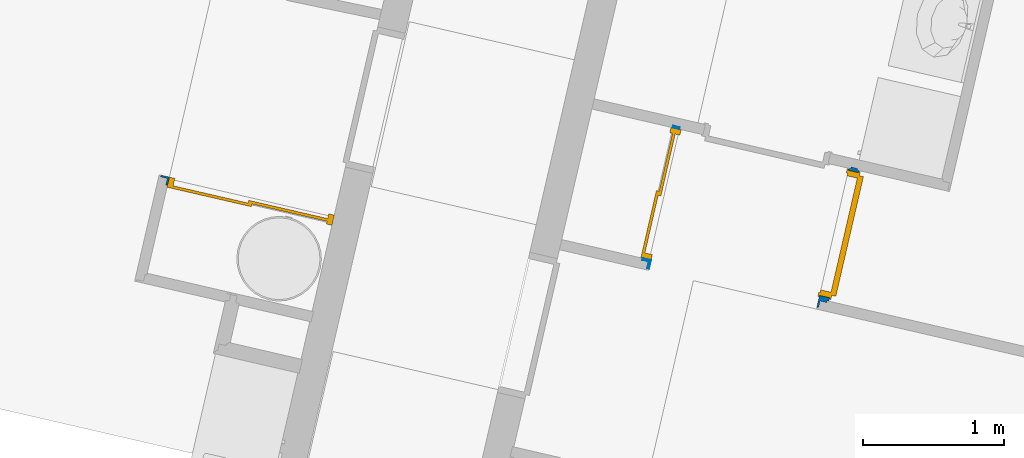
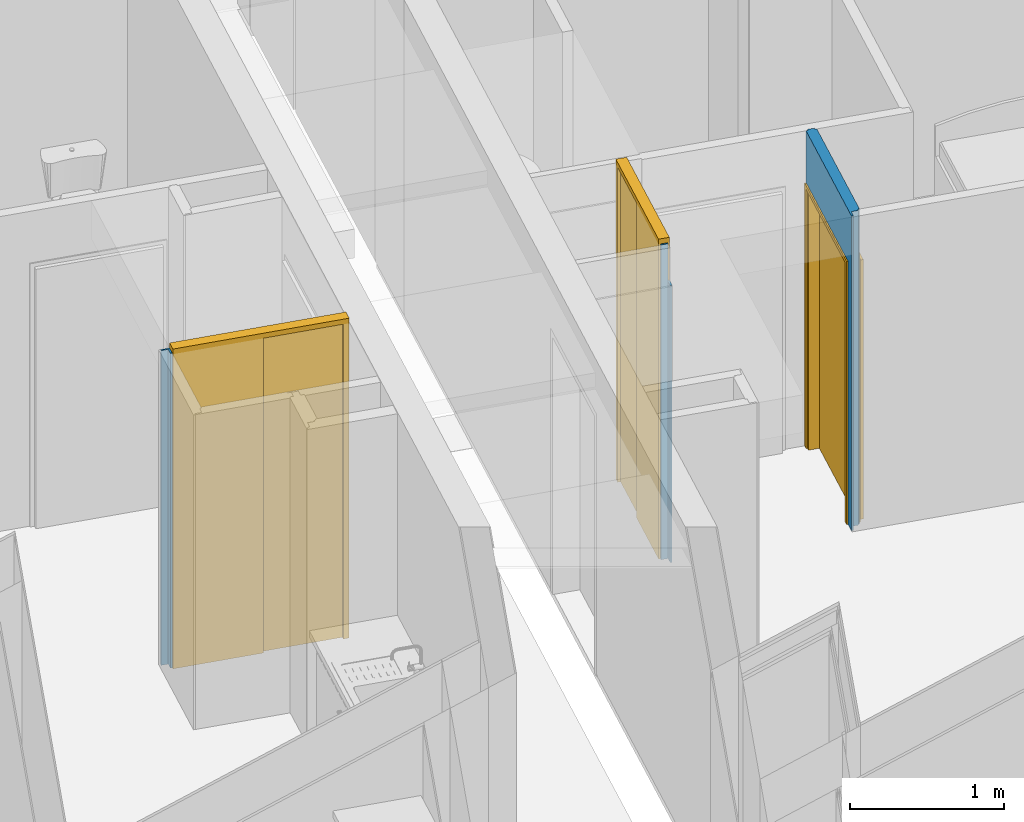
# One storey, part 18 of 119: 3 doors, 3 walls, 3 openings.
"""IFC2X3 building model written with IfcOpenShell, lengths in metres."""

import ifcopenshell
import ifcopenshell.guid

model = None  # the IFC model being written
_history = None  # IfcOwnerHistory: only IFC2X3 demands one
_inside = {}  # id of a spatial element -> (the spatial element, [elements in it])
_under = {}  # id of a project, library or spatial element -> (it, [spatial elements below it])
_declared = {}  # id of a project -> (the project, [libraries it declares])
_typed = {}  # id of a type object -> (the type object, [elements of that type])
_made_of = {}  # id of a material, layer set ... -> (it, [elements and type objects made of it])


def new_model(schema):
    """Start an empty IFC model of exactly this schema.

    Asked for "IFC4X3", IfcOpenShell would pick the latest addendum, in which some entities
    have other attributes; the version numbers below select the first issue.
    IFC2X3 requires an IfcOwnerHistory on every rooted entity: one is made here for all.
    """
    global model, _history
    if schema == "IFC4X3":
        model = ifcopenshell.file(schema_version=(4, 3, 0, 0))
    else:
        model = ifcopenshell.file(schema=schema)
    _inside.clear()
    _under.clear()
    _declared.clear()
    _typed.clear()
    _made_of.clear()
    _history = None
    if model.schema == "IFC2X3":
        org = make("IfcOrganization", Name="unknown")
        user = make(
            "IfcPersonAndOrganization",
            ThePerson=make("IfcPerson", FamilyName="unknown"),
            TheOrganization=org,
        )
        app = make(
            "IfcApplication",
            ApplicationDeveloper=org,
            Version="unknown",
            ApplicationFullName="unknown",
            ApplicationIdentifier="unknown",
        )
        _history = make(
            "IfcOwnerHistory",
            OwningUser=user,
            OwningApplication=app,
            ChangeAction="ADDED",
            CreationDate=0,
        )
    return model


def make(cls, **values):
    """One entity of the class cls with the attributes given. An attribute that is None is left unset."""
    return model.create_entity(
        cls, **{name: value for name, value in values.items() if value is not None}
    )


def entity(cls, *values):
    """Any entity or typed value of the class cls, its attributes in the order of the schema. None: left unset."""
    e = model.create_entity(cls)
    for i, value in enumerate(values):
        if value is not None:
            e[i] = value
    return e


def rooted(cls, **values):
    """An entity with a GlobalId (a new one), such as an element, a storey or a relation."""
    return make(cls, GlobalId=ifcopenshell.guid.new(), OwnerHistory=_history, **values)


def si_unit(unit_type, name, prefix=None):
    """IfcSIUnit, for example si_unit("LENGTHUNIT", "METRE", prefix="MILLI")."""
    return make("IfcSIUnit", UnitType=unit_type, Prefix=prefix, Name=name)


def converted_unit(unit_type, name, factor, base, dimensions=None, offset=None):
    """IfcConversionBasedUnit, such as the inch: factor (a typed value) times the base unit."""
    return make(
        "IfcConversionBasedUnit"
        if offset is None
        else "IfcConversionBasedUnitWithOffset",
        ConversionOffset=offset,
        Dimensions=None
        if dimensions is None
        else entity("IfcDimensionalExponents", *dimensions),
        UnitType=unit_type,
        Name=name,
        ConversionFactor=make(
            "IfcMeasureWithUnit", ValueComponent=factor, UnitComponent=base
        ),
    )


def derived_unit(unit_type, elements):
    """IfcDerivedUnit: a product of units, each with its exponent."""
    return make(
        "IfcDerivedUnit",
        Elements=[
            make("IfcDerivedUnitElement", Unit=unit, Exponent=power)
            for unit, power in elements
        ],
        UnitType=unit_type,
    )


def money_unit(currency):
    """IfcMonetaryUnit."""
    return make("IfcMonetaryUnit", Currency=currency)


def assignment(units):
    """IfcUnitAssignment: the units of a project."""
    return None if units is None else make("IfcUnitAssignment", Units=units)


def point(xyz):
    """IfcCartesianPoint."""
    return None if xyz is None else make("IfcCartesianPoint", Coordinates=xyz)


def direction(xyz):
    """IfcDirection."""
    return None if xyz is None else make("IfcDirection", DirectionRatios=xyz)


def frame(location, z_axis=None, x_axis=None):
    """IfcAxis2Placement3D, a coordinate frame: its origin and axes. An axis left out is left unset."""
    return make(
        "IfcAxis2Placement3D",
        Location=point(location),
        Axis=direction(z_axis),
        RefDirection=direction(x_axis),
    )


def origin_with_axes():
    """The frame at (0, 0, 0) with the z axis (0, 0, 1) and the x axis (1, 0, 0) written out."""
    return frame((0.0, 0.0, 0.0), z_axis=(0.0, 0.0, 1.0), x_axis=(1.0, 0.0, 0.0))


def place(relative_to, where):
    """IfcLocalPlacement: puts the frame where relative to a parent placement (None: the world)."""
    return make(
        "IfcLocalPlacement", PlacementRelTo=relative_to, RelativePlacement=where
    )


def context(
    kind, dimensions, precision=None, world=None, true_north=None, identifier=None
):
    """IfcGeometricRepresentationContext, for example the 3D "Model" context."""
    return make(
        "IfcGeometricRepresentationContext",
        ContextIdentifier=identifier,
        ContextType=kind,
        CoordinateSpaceDimension=dimensions,
        Precision=precision,
        WorldCoordinateSystem=world,
        TrueNorth=true_north,
    )


def subcontext(parent, identifier, kind, view, scale=None):
    """IfcGeometricRepresentationSubContext, for example "Body" below "Model"."""
    return make(
        "IfcGeometricRepresentationSubContext",
        ContextIdentifier=identifier,
        ContextType=kind,
        ParentContext=parent,
        TargetScale=scale,
        TargetView=view,
    )


def project(units=None, contexts=None):
    """IfcProject with its units and contexts."""
    return rooted(
        "IfcProject",
        Name="project",
        RepresentationContexts=contexts,
        UnitsInContext=assignment(units),
    )


def spatial(cls, under=None, at=None, **own):
    """A site, building, storey or space (cls), placed at a placement, below another one or the project."""
    s = rooted(cls, ObjectPlacement=at, **own)
    if under is not None:
        _under.setdefault(under.id(), (under, []))[1].append(s)
    return s


def faces_of(points, faces, orient=None, outer=None):
    """IfcFace entities. A face is a list of loops; a loop is a list of indices into points, from 0.

    orient and outer hold one flag for each loop. By default every Orientation is true, the
    first loop of a face is its IfcFaceOuterBound and the others are IfcFaceBound.
    """
    made = []
    for i, loops in enumerate(faces):
        bounds = []
        for j, loop in enumerate(loops):
            is_outer = j == 0 if outer is None else outer[i][j]
            bounds.append(
                make(
                    "IfcFaceOuterBound" if is_outer else "IfcFaceBound",
                    Bound=make("IfcPolyLoop", Polygon=[points[k] for k in loop]),
                    Orientation=True if orient is None else orient[i][j],
                )
            )
        made.append(make("IfcFace", Bounds=bounds))
    return made


def faceted_brep(points, faces, orient=None, outer=None, voids=None):
    """IfcFacetedBrep: a solid bounded by flat faces; with voids (closed shells), ...WithVoids."""
    shared = [point(p) for p in points]
    hull = make("IfcClosedShell", CfsFaces=faces_of(shared, faces, orient, outer))
    if voids is None:
        return make("IfcFacetedBrep", Outer=hull)
    return make(
        "IfcFacetedBrepWithVoids",
        Outer=hull,
        Voids=[
            make(cls, CfsFaces=faces_of(shared, fs, o, b)) for cls, fs, o, b in voids
        ],
    )


def shape(context_of_items, identifier, shape_type, items):
    """IfcShapeRepresentation: the items that make up one representation, for example the "Body"."""
    return make(
        "IfcShapeRepresentation",
        ContextOfItems=context_of_items,
        RepresentationIdentifier=identifier,
        RepresentationType=shape_type,
        Items=items,
    )


def source(mapping_origin, context_of_items, identifier, shape_type, items):
    """IfcRepresentationMap: a shape defined once, which mapped items show again and again."""
    return make(
        "IfcRepresentationMap",
        MappingOrigin=mapping_origin,
        MappedRepresentation=shape(context_of_items, identifier, shape_type, items),
    )


def transform(
    local_origin,
    x_axis=None,
    y_axis=None,
    z_axis=None,
    scale=None,
    scale2=None,
    scale3=None,
    uniform=True,
):
    """IfcCartesianTransformationOperator3D, or its non-uniform kind. x_axis, y_axis, z_axis: its Axis1, 2, 3."""
    if uniform:
        return make(
            "IfcCartesianTransformationOperator3D",
            Axis1=direction(x_axis),
            Axis2=direction(y_axis),
            LocalOrigin=point(local_origin),
            Scale=scale,
            Axis3=direction(z_axis),
        )
    return make(
        "IfcCartesianTransformationOperator3DnonUniform",
        Axis1=direction(x_axis),
        Axis2=direction(y_axis),
        LocalOrigin=point(local_origin),
        Scale=scale,
        Axis3=direction(z_axis),
        Scale2=scale2,
        Scale3=scale3,
    )


def mapped(mapping_source, mapping_target):
    """IfcMappedItem: shows the shape of a source again, moved by a transform."""
    return make(
        "IfcMappedItem", MappingSource=mapping_source, MappingTarget=mapping_target
    )


def material(Name=None, Category=None):
    """IfcMaterial."""
    return make("IfcMaterial", Name=Name, Category=Category)


def material_list(materials):
    """IfcMaterialList."""
    return make("IfcMaterialList", Materials=materials)


def made_of(thing, what):
    """Note that an element or type object is made of a material, layer set ...; save() writes the relation."""
    if what is not None:
        _made_of.setdefault(what.id(), (what, []))[1].append(thing)
    return thing


def type_object(cls, material=None, **own):
    """A type object (cls), such as IfcWallType, which elements share."""
    return made_of(rooted(cls, **own), material)


def element(
    cls,
    number,
    at=None,
    inside=None,
    cuts=None,
    type_object=None,
    material=None,
    context=None,
    identifier="Body",
    shape_type=None,
    held_by="IfcProductDefinitionShape",
    body=None,
    shapes=None,
    **own,
):
    """One element of the class cls, such as IfcWall. Its Tag is "e" and its number.

    at: its placement. inside: the storey or other place that contains it. cuts: it is an
    opening in that element (IfcRelVoidsElement). A single representation is given by context,
    identifier, shape_type and body (its items); several are given by shapes. held_by: the class
    of the entity that holds the representations. save() writes the other relations.
    """
    e = rooted(cls, Tag="e%d" % number, ObjectPlacement=at, **own)
    if body is not None:
        shapes = [shape(context, identifier, shape_type, body)]
    if shapes is not None:
        e.Representation = make(held_by, Representations=shapes)
    if inside is not None:
        _inside.setdefault(inside.id(), (inside, []))[1].append(e)
    if cuts is not None:
        rooted(
            "IfcRelVoidsElement", RelatingBuildingElement=cuts, RelatedOpeningElement=e
        )
    if type_object is not None:
        _typed.setdefault(type_object.id(), (type_object, []))[1].append(e)
    return made_of(e, material)


def fill(opening, filler):
    """IfcRelFillsElement: the door or window that sits in an opening."""
    return rooted(
        "IfcRelFillsElement",
        RelatingOpeningElement=opening,
        RelatedBuildingElement=filler,
    )


def aggregate(whole, parts):
    """IfcRelAggregates: a whole, such as a stair, and the parts it consists of."""
    return rooted("IfcRelAggregates", RelatingObject=whole, RelatedObjects=parts)


def save(model, path):
    """Write the relations noted so far, then the file.

    IfcRelAggregates (storeys below a building ...), IfcRelContainedInSpatialStructure (elements
    in a storey), IfcRelDefinesByType, IfcRelAssociatesMaterial and IfcRelDeclares: one each for
    every whole, place, type object, material and project.
    """
    for whole, parts in _under.values():
        aggregate(whole, parts)
    for where, things in _inside.values():
        rooted(
            "IfcRelContainedInSpatialStructure",
            RelatedElements=things,
            RelatingStructure=where,
        )
    for kind, things in _typed.values():
        rooted("IfcRelDefinesByType", RelatedObjects=things, RelatingType=kind)
    for what, things in _made_of.values():
        rooted("IfcRelAssociatesMaterial", RelatedObjects=things, RelatingMaterial=what)
    for by, libraries in _declared.values():
        rooted("IfcRelDeclares", RelatingContext=by, RelatedDefinitions=libraries)
    model.write(path)


model = new_model("IFC2X3")

# Units and contexts
model_context = context("Model", 3, precision=1e-05, world=origin_with_axes(), true_north=direction((0.0, 1.0)))
body_context = subcontext(model_context, "Body", "Model", "MODEL_VIEW")
ifc_project = project(units=[si_unit("LENGTHUNIT", "METRE"), si_unit("AREAUNIT", "SQUARE_METRE"), si_unit("VOLUMEUNIT", "CUBIC_METRE"), converted_unit("PLANEANGLEUNIT", "DEGREE", entity("IfcPlaneAngleMeasure", 0.0174532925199), si_unit("PLANEANGLEUNIT", "RADIAN"), dimensions=[0, 0, 0, 0, 0, 0, 0]), si_unit("SOLIDANGLEUNIT", "STERADIAN"), money_unit("EUR"), converted_unit("TIMEUNIT", "Year", entity("IfcTimeMeasure", 31556926.0), si_unit("TIMEUNIT", "SECOND"), dimensions=[0, 0, 1, 0, 0, 0, 0]), si_unit("MASSUNIT", "GRAM", prefix="KILO"), si_unit("THERMODYNAMICTEMPERATUREUNIT", "DEGREE_CELSIUS"), si_unit("LUMINOUSINTENSITYUNIT", "LUMEN"), si_unit("ENERGYUNIT", "JOULE", prefix="MEGA"), derived_unit("THERMALCONDUCTANCEUNIT", [(si_unit("POWERUNIT", "WATT"), 1), (si_unit("LENGTHUNIT", "METRE"), -1), (si_unit("THERMODYNAMICTEMPERATUREUNIT", "KELVIN"), -1)]), derived_unit("SPECIFICHEATCAPACITYUNIT", [(si_unit("ENERGYUNIT", "JOULE"), 1), (si_unit("MASSUNIT", "GRAM", prefix="KILO"), -1), (si_unit("THERMODYNAMICTEMPERATUREUNIT", "KELVIN"), -1)]), derived_unit("MASSDENSITYUNIT", [(si_unit("MASSUNIT", "GRAM", prefix="KILO"), 1), (si_unit("VOLUMEUNIT", "CUBIC_METRE"), -1)])], contexts=[model_context])

# Site, building, storey
site_placement = place(None, origin_with_axes())
site = spatial("IfcSite", under=ifc_project, at=site_placement, Name="Site", CompositionType="ELEMENT")
building_placement = place(site_placement, origin_with_axes())
building = spatial("IfcBuilding", under=site, at=building_placement, Name="Bâtiment", CompositionType="ELEMENT")
storey_placement = place(building_placement, origin_with_axes())
storey = spatial("IfcBuildingStorey", under=building, at=storey_placement, Name="Rez-de-chaussée", CompositionType="ELEMENT", Elevation=0.0)

# Wall, opening, door
ifc_material_1 = material(Name="Finition int - Plaque de plâtre")
ifc_material_2 = material(Name="Isolation - Laine de roche")
ifc_material_list_1 = material_list([ifc_material_1, ifc_material_2, ifc_material_1])
wall_type = type_object("IfcWallType", Name="3 - Cloison 72mm Placostil 74", PredefinedType="USERDEFINED")
wall_1_placement = place(storey_placement, frame((-10.0917592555, -11.900312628, 0.0), z_axis=(0.0, 0.0, 1.0), x_axis=(-0.224876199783, -0.974387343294, 0.0)))
wall_1 = element("IfcWall", 1, at=wall_1_placement, inside=storey, type_object=wall_type, material=ifc_material_list_1, Name="Cloison Placostil 72/48", ObjectType="PARTITIONING", context=body_context, shape_type="Brep", body=[
    faceted_brep([(0.924458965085, 0.074, 0.0), (0.924458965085, 0.074, 2.08), (0.014458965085, 0.074, 2.08), (0.014458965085, 0.074, 0.0), (-8.63048299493e-10, 0.074, 0.0), (-8.63048299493e-10, 0.074, 2.5), (0.949833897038, 0.074, 2.5), (0.949833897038, 0.074, 0.0), (0.924458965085, 0.061, 0.0), (0.924458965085, 0.061, 2.08), (0.014458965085, 0.061, 2.08), (0.014458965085, 0.061, 0.0), (-8.64032401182e-10, 0.061, 0.0), (-8.64032401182e-10, 0.061, 2.5), (0.949833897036, 0.061, 2.5), (0.949833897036, 0.061, 0.0)], [[[0, 1, 2, 3, 4, 5, 6, 7]], [[1, 0, 8, 9]], [[2, 1, 9, 10]], [[3, 2, 10, 11]], [[3, 11, 12, 4]], [[4, 12, 13, 5]], [[6, 5, 13, 14]], [[7, 6, 14, 15]], [[8, 0, 7, 15]], [[9, 8, 15, 14, 13, 12, 11, 10]]]),
    faceted_brep([(0.924458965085, 0.061, 0.0), (0.924458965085, 0.061, 2.08), (0.014458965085, 0.061, 2.08), (0.014458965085, 0.061, 0.0), (-0.013000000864, 0.061, 0.0), (-0.013000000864, 0.061, 2.5), (0.962833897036, 0.061, 2.5), (0.962833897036, 0.061, 0.0), (0.924458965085, 0.013, 0.0), (0.924458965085, 0.013, 2.08), (0.014458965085, 0.013, 2.08), (0.014458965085, 0.013, 0.0), (-0.0130000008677, 0.013, 0.0), (-0.0130000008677, 0.013, 2.5), (0.962833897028, 0.013, 2.5), (0.962833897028, 0.013, 0.0)], [[[0, 1, 2, 3, 4, 5, 6, 7]], [[1, 0, 8, 9]], [[2, 1, 9, 10]], [[3, 2, 10, 11]], [[3, 11, 12, 4]], [[4, 12, 13, 5]], [[6, 5, 13, 14]], [[7, 6, 14, 15]], [[8, 0, 7, 15]], [[9, 8, 15, 14, 13, 12, 11, 10]]]),
    faceted_brep([(0.924458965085, 0.013, 0.0), (0.924458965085, 0.013, 2.08), (0.014458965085, 0.013, 2.08), (0.014458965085, 0.013, 0.0), (-8.67670379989e-10, 0.013, 0.0), (-8.67670379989e-10, 0.013, 2.5), (1.01083389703, 0.013, 2.5), (1.01083389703, 0.013, 0.0), (0.924458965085, 0.0, 0.0), (0.924458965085, 0.0, 2.08), (0.014458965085, 0.0, 2.08), (0.014458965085, 0.0, 0.0), (-8.68656258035e-10, 0.0, 0.0), (-8.68656258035e-10, 0.0, 2.5), (1.01083389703, 0.0, 2.5), (1.01083389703, 0.0, 0.0)], [[[0, 1, 2, 3, 4, 5, 6, 7]], [[1, 0, 8, 9]], [[2, 1, 9, 10]], [[3, 2, 10, 11]], [[3, 11, 12, 4]], [[4, 12, 13, 5]], [[6, 5, 13, 14]], [[7, 6, 14, 15]], [[8, 0, 7, 15]], [[9, 8, 15, 14, 13, 12, 11, 10]]]),
])
opening_1_placement = place(wall_1_placement, frame((0.469458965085, 0.0, 0.0), z_axis=(0.0, 0.0, 1.0), x_axis=(1.0, 0.0, 0.0)))
opening_1 = element("IfcOpeningElement", 2, at=opening_1_placement, cuts=wall_1, Name="Porte 83x204 bois alvéolaire", context=body_context, shape_type="Brep", body=[
    faceted_brep([(0.455, -0.074, 0.0), (-0.455, -0.074, 0.0), (-0.455, 0.074, 0.0), (0.455, 0.074, 0.0), (0.455, -0.074, 2.08), (-0.455, -0.074, 2.08), (-0.455, 0.074, 2.08), (0.455, 0.074, 2.08)], [[[0, 1, 2, 3]], [[0, 4, 5, 1]], [[1, 5, 6, 2]], [[3, 2, 6, 7]], [[4, 0, 3, 7]], [[5, 4, 7, 6]]]),
])
door_style_1 = type_object("IfcDoorStyle", Name="Porte int générique 2019", ConstructionType="NOTDEFINED", OperationType="SINGLE_SWING_RIGHT", ParameterTakesPrecedence=False, Sizeable=False)
shared_shape_1 = source(origin_with_axes(), body_context, "Body", "Brep", [
    faceted_brep([(0.455, 0.0, 0.0), (0.415, 0.0, 0.0), (0.415, 0.0, 2.04), (-0.415, 0.0, 2.04), (-0.415, 0.0, 0.0), (-0.455, 0.0, 0.0), (-0.455, 0.0, 2.08), (0.455, 0.0, 2.08), (0.455, -0.074, 0.0), (0.415, -0.074, 0.0), (0.415, -0.074, 2.04), (-0.415, -0.074, 2.04), (-0.415, -0.074, 0.0), (-0.455, -0.074, 0.0), (-0.455, -0.074, 2.08), (0.455, -0.074, 2.08)], [[[0, 1, 2, 3, 4, 5, 6, 7]], [[0, 8, 9, 1]], [[1, 9, 10, 2]], [[2, 10, 11, 3]], [[3, 11, 12, 4]], [[5, 4, 12, 13]], [[14, 6, 5, 13]], [[15, 7, 6, 14]], [[8, 0, 7, 15]], [[9, 8, 15, 14, 13, 12, 11, 10]]]),
    faceted_brep([(0.465, 0.0, 0.0), (0.465, 0.01, 0.0), (0.465, 0.01, 2.09), (0.465, 0.0, 2.09), (0.435, 0.0, 0.0), (0.435, 0.01, 0.0), (0.435, 0.01, 2.06), (-0.435, 0.01, 2.06), (-0.435, 0.01, 0.0), (-0.465, 0.01, 0.0), (-0.465, 0.01, 2.09), (-0.465, 0.0, 2.09), (-0.465, 0.0, 0.0), (-0.435, 0.0, 0.0), (-0.435, 0.0, 2.06), (0.435, 0.0, 2.06)], [[[0, 1, 2, 3]], [[0, 4, 5, 1]], [[1, 5, 6, 7, 8, 9, 10, 2]], [[3, 2, 10, 11]], [[4, 0, 3, 11, 12, 13, 14, 15]], [[5, 4, 15, 6]], [[6, 15, 14, 7]], [[7, 14, 13, 8]], [[12, 9, 8, 13]], [[11, 10, 9, 12]]]),
    faceted_brep([(0.465, -0.084, 0.0), (0.465, -0.074, 0.0), (0.465, -0.074, 2.09), (0.465, -0.084, 2.09), (0.435, -0.084, 0.0), (0.435, -0.074, 0.0), (0.435, -0.074, 2.06), (-0.435, -0.074, 2.06), (-0.435, -0.074, 0.0), (-0.465, -0.074, 0.0), (-0.465, -0.074, 2.09), (-0.465, -0.084, 2.09), (-0.465, -0.084, 0.0), (-0.435, -0.084, 0.0), (-0.435, -0.084, 2.06), (0.435, -0.084, 2.06)], [[[0, 1, 2, 3]], [[0, 4, 5, 1]], [[1, 5, 6, 7, 8, 9, 10, 2]], [[3, 2, 10, 11]], [[4, 0, 3, 11, 12, 13, 14, 15]], [[5, 4, 15, 6]], [[6, 15, 14, 7]], [[7, 14, 13, 8]], [[12, 9, 8, 13]], [[11, 10, 9, 12]]]),
    faceted_brep([(0.435, 0.04, 0.0), (0.435, 0.0, 0.0), (-0.435, 0.0, 0.0), (-0.435, 0.04, 0.0), (0.435, 0.04, 2.06), (0.435, 0.0, 2.06), (-0.435, 0.0, 2.06), (-0.435, 0.04, 2.06)], [[[0, 1, 2, 3]], [[4, 5, 1, 0]], [[1, 5, 6, 2]], [[3, 2, 6, 7]], [[0, 3, 7, 4]], [[7, 6, 5, 4]]]),
])
door_1_placement = place(opening_1_placement, frame((-0.415, 0.0, 0.0), z_axis=(0.0, 0.0, 1.0), x_axis=(1.0, 0.0, 0.0)))
door_1 = element("IfcDoor", 3, at=door_1_placement, inside=storey, type_object=door_style_1, Name="Porte 83x204 bois alvéolaire", ObjectType="DOOR", OverallHeight=2.04, OverallWidth=0.83, context=body_context, shape_type="MappedRepresentation", body=[
    mapped(shared_shape_1, transform((0.415, 0.074, 0.0))),
])
fill(opening_1, door_1)

ifc_material_list_2 = material_list([ifc_material_2, ifc_material_1])
wall_2_placement = place(storey_placement, frame((-11.5107476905, -12.6235744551, 0.0), z_axis=(0.0, 0.0, 1.0), x_axis=(0.224876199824, 0.974387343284, 0.0)))
wall_2 = element("IfcWall", 4, at=wall_2_placement, inside=storey, type_object=wall_type, material=ifc_material_list_2, Name="Cloison Placostil 72/48", ObjectType="PARTITIONING", context=body_context, shape_type="Brep", body=[
    faceted_brep([(0.0740000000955, 0.013, 0.0), (0.0740000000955, 0.013, 2.5), (0.0610000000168, 0.013, 2.5), (0.0610000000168, 0.013, 0.0), (0.0740000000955, 0.061, 2.5), (0.0740000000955, 0.061, 0.0), (0.0610000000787, 0.061, 2.5), (0.0610000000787, 0.061, 0.0)], [[[0, 1, 2, 3]], [[4, 1, 0, 5]], [[1, 4, 6, 2]], [[7, 3, 2, 6]], [[5, 0, 3, 7]], [[4, 5, 7, 6]]]),
    faceted_brep([(1.02383389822, 0.061, 2.5), (1.02383389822, 0.013, 2.5), (1.036833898, 0.013, 2.5), (1.036833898, 0.061, 2.5), (1.02383389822, 0.013, 0.0), (1.02383389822, 0.061, 0.0), (1.036833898, 0.013, 0.0), (1.036833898, 0.061, 0.0)], [[[0, 1, 2, 3]], [[4, 1, 0, 5]], [[1, 4, 6, 2]], [[7, 3, 2, 6]], [[5, 0, 3, 7]], [[4, 5, 7, 6]]]),
    faceted_brep([(0.0740000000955, 0.0, 0.0), (0.0740000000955, 0.0, 2.2), (0.013, 0.0, 2.2), (0.013, 0.0, 0.0), (0.0740000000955, 0.013, 2.2), (0.0740000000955, 0.013, 0.0), (0.0130000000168, 0.013, 2.2), (0.0130000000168, 0.013, 0.0)], [[[0, 1, 2, 3]], [[4, 1, 0, 5]], [[1, 4, 6, 2]], [[6, 7, 3, 2]], [[5, 0, 3, 7]], [[4, 5, 7, 6]]]),
])
opening_2_placement = place(wall_2_placement, frame((0.548916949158, 0.0, 0.0), z_axis=(0.0, 0.0, 1.0), x_axis=(1.0, 0.0, 0.0)))
opening_2 = element("IfcOpeningElement", 5, at=opening_2_placement, cuts=wall_2, Name="Por-002", context=body_context, shape_type="Brep", body=[
    faceted_brep([(-0.474916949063, 0.074, 0.0), (0.474916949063, 0.074, 0.0), (0.474916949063, -0.074, 0.0), (-0.474916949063, -0.074, 0.0), (-0.474916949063, 0.074, 2.54), (0.474916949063, 0.074, 2.54), (0.474916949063, -0.074, 2.54), (-0.474916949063, -0.074, 2.54)], [[[0, 1, 2, 3]], [[0, 4, 5, 1]], [[1, 5, 6, 2]], [[3, 2, 6, 7]], [[4, 0, 3, 7]], [[5, 4, 7, 6]]]),
])
door_style_2 = type_object("IfcDoorStyle", Name="Porte int générique 2019", ConstructionType="NOTDEFINED", OperationType="USERDEFINED", ParameterTakesPrecedence=False, Sizeable=False)
shared_shape_2 = source(origin_with_axes(), body_context, "Body", "Brep", [
    faceted_brep([(-0.474916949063, -0.006, 0.0), (-0.474916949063, -0.006, 2.54), (0.474916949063, -0.006, 2.54), (0.474916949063, -0.006, 0.0), (0.434916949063, -0.006, 0.0), (0.434916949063, -0.006, 2.5), (-0.434916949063, -0.006, 2.5), (-0.434916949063, -0.006, 0.0), (-0.474916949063, -0.08, 0.0), (-0.474916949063, -0.08, 2.54), (0.474916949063, -0.08, 2.54), (0.474916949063, -0.08, 0.0), (0.434916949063, -0.08, 0.0), (0.434916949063, -0.08, 2.5), (-0.434916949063, -0.08, 2.5), (-0.434916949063, -0.08, 0.0)], [[[0, 1, 2, 3, 4, 5, 6, 7]], [[8, 9, 1, 0]], [[9, 10, 2, 1]], [[10, 11, 3, 2]], [[3, 11, 12, 4]], [[5, 4, 12, 13]], [[6, 5, 13, 14]], [[7, 6, 14, 15]], [[0, 7, 15, 8]], [[15, 14, 13, 12, 11, 10, 9, 8]]]),
    faceted_brep([(-0.434916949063, -0.006, 0.0), (0.015, -0.006, 0.0), (0.015, -0.026, 0.0), (-0.434916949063, -0.026, 0.0), (-0.434916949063, -0.006, 2.5), (0.015, -0.006, 2.5), (0.015, -0.026, 2.5), (-0.434916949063, -0.026, 2.5)], [[[0, 1, 2, 3]], [[0, 4, 5, 1]], [[1, 5, 6, 2]], [[3, 2, 6, 7]], [[4, 0, 3, 7]], [[5, 4, 7, 6]]]),
    faceted_brep([(-0.015, -0.026, 0.0), (0.434916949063, -0.026, 0.0), (0.434916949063, -0.046, 0.0), (-0.015, -0.046, 0.0), (-0.015, -0.026, 2.5), (0.434916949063, -0.026, 2.5), (0.434916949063, -0.046, 2.5), (-0.015, -0.046, 2.5)], [[[0, 1, 2, 3]], [[0, 4, 5, 1]], [[1, 5, 6, 2]], [[3, 2, 6, 7]], [[4, 0, 3, 7]], [[5, 4, 7, 6]]]),
])
door_2_placement = place(opening_2_placement, frame((-0.434916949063, 0.0, 0.0), z_axis=(0.0, 0.0, 1.0), x_axis=(1.0, 0.0, 0.0)))
door_2 = element("IfcDoor", 6, at=door_2_placement, inside=storey, type_object=door_style_2, Name="Por-002", ObjectType="DOOR", OverallHeight=2.5, OverallWidth=0.869834, context=body_context, shape_type="MappedRepresentation", body=[
    mapped(shared_shape_2, transform((0.434916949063, 0.08, 0.0))),
])
fill(opening_2, door_2)

ifc_material_list_3 = material_list([ifc_material_1, ifc_material_2])
wall_3_placement = place(storey_placement, frame((-14.9812094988, -11.9457528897, 0.0), z_axis=(0.0, 0.0, 1.0), x_axis=(0.974387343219, -0.224876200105, 0.0)))
wall_3 = element("IfcWall", 7, at=wall_3_placement, inside=storey, type_object=wall_type, material=ifc_material_list_3, Name="Cloison Placostil 72/48", ObjectType="PARTITIONING", context=body_context, shape_type="Brep", body=[
    faceted_brep([(0.0739999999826, -0.013, 2.2), (0.0739999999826, 0.0, 2.2), (0.0740000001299, 0.0, 2.5), (0.0740000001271, -0.013, 2.5), (0.0739999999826, 0.0, 0.0), (0.0739999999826, -0.013, 0.0), (0.013, 0.0, 0.0), (0.013, 0.0, 2.5), (0.0129999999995, -0.013, 2.5), (0.0129999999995, -0.013, 0.0)], [[[0, 1, 2, 3]], [[4, 1, 0, 5]], [[1, 4, 6, 7, 2]], [[2, 7, 8, 3]], [[5, 0, 3, 8, 9]], [[4, 5, 9, 6]], [[8, 7, 6, 9]]]),
    faceted_brep([(0.0739999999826, -0.061, 2.5), (0.0739999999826, -0.013, 2.5), (0.0609999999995, -0.013, 2.5), (0.0609999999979, -0.061, 2.5), (0.0739999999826, -0.013, 0.0), (0.0739999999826, -0.061, 0.0), (0.0609999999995, -0.013, 0.0), (0.0609999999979, -0.061, 0.0)], [[[0, 1, 2, 3]], [[4, 1, 0, 5]], [[1, 4, 6, 2]], [[3, 2, 6, 7]], [[5, 0, 3, 7]], [[4, 5, 7, 6]]]),
])
opening_3_placement = place(wall_3_placement, frame((0.673999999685, 0.0, 0.0), z_axis=(0.0, 0.0, 1.0), x_axis=(1.0, 0.0, 0.0)))
opening_3 = element("IfcOpeningElement", 8, at=opening_3_placement, cuts=wall_3, Name="Por-002", context=body_context, shape_type="Brep", body=[
    faceted_brep([(-0.599999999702, 0.074, 0.0), (0.599999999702, 0.074, 0.0), (0.599999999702, -0.074, 0.0), (-0.599999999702, -0.074, 0.0), (-0.599999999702, 0.074, 2.54), (0.599999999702, 0.074, 2.54), (0.599999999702, -0.074, 2.54), (-0.599999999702, -0.074, 2.54)], [[[0, 1, 2, 3]], [[0, 4, 5, 1]], [[1, 5, 6, 2]], [[3, 2, 6, 7]], [[4, 0, 3, 7]], [[5, 4, 7, 6]]]),
])
shared_shape_3 = source(origin_with_axes(), body_context, "Body", "Brep", [
    faceted_brep([(0.599999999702, -0.006, 0.0), (0.559999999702, -0.006, 0.0), (0.559999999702, -0.006, 2.5), (-0.559999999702, -0.006, 2.5), (-0.559999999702, -0.006, 0.0), (-0.599999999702, -0.006, 0.0), (-0.599999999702, -0.006, 2.54), (0.599999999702, -0.006, 2.54), (0.599999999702, -0.08, 0.0), (0.559999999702, -0.08, 0.0), (0.559999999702, -0.08, 2.5), (-0.559999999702, -0.08, 2.5), (-0.559999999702, -0.08, 0.0), (-0.599999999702, -0.08, 0.0), (-0.599999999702, -0.08, 2.54), (0.599999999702, -0.08, 2.54)], [[[0, 1, 2, 3, 4, 5, 6, 7]], [[0, 8, 9, 1]], [[1, 9, 10, 2]], [[2, 10, 11, 3]], [[3, 11, 12, 4]], [[5, 4, 12, 13]], [[14, 6, 5, 13]], [[15, 7, 6, 14]], [[8, 0, 7, 15]], [[9, 8, 15, 14, 13, 12, 11, 10]]]),
    faceted_brep([(0.559999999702, -0.006, 0.0), (0.559999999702, -0.026, 0.0), (-0.015, -0.026, 0.0), (-0.015, -0.006, 0.0), (0.559999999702, -0.006, 2.5), (0.559999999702, -0.026, 2.5), (-0.015, -0.026, 2.5), (-0.015, -0.006, 2.5)], [[[0, 1, 2, 3]], [[4, 5, 1, 0]], [[1, 5, 6, 2]], [[3, 2, 6, 7]], [[0, 3, 7, 4]], [[7, 6, 5, 4]]]),
    faceted_brep([(0.015, -0.026, 0.0), (0.015, -0.046, 0.0), (-0.559999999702, -0.046, 0.0), (-0.559999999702, -0.026, 0.0), (0.015, -0.026, 2.5), (0.015, -0.046, 2.5), (-0.559999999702, -0.046, 2.5), (-0.559999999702, -0.026, 2.5)], [[[0, 1, 2, 3]], [[4, 5, 1, 0]], [[1, 5, 6, 2]], [[3, 2, 6, 7]], [[0, 3, 7, 4]], [[7, 6, 5, 4]]]),
])
door_3_placement = place(opening_3_placement, frame((0.559999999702, 0.0, 0.0), z_axis=(0.0, 0.0, 1.0), x_axis=(-1.0, 0.0, 0.0)))
door_3 = element("IfcDoor", 9, at=door_3_placement, inside=storey, type_object=door_style_2, Name="Por-002", ObjectType="DOOR", OverallHeight=2.5, OverallWidth=1.12, context=body_context, shape_type="MappedRepresentation", body=[
    mapped(shared_shape_3, transform((0.559999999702, 0.08, 0.0))),
])
fill(opening_3, door_3)

save(model, "model.ifc")
